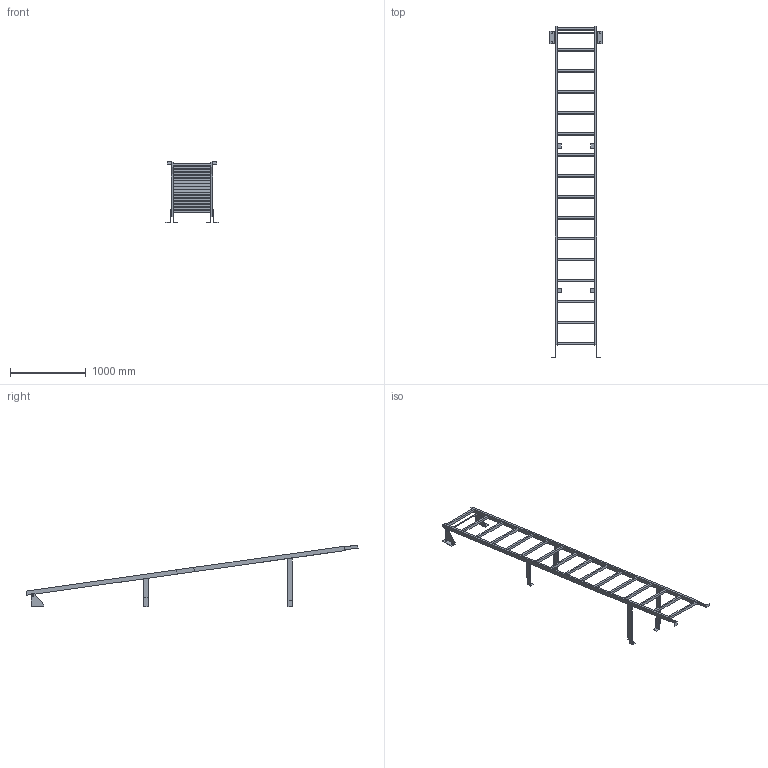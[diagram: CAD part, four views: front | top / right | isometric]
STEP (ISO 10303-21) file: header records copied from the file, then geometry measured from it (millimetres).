
FILE_DESCRIPTION((''),'2;1');
FILE_NAME('52310369','2024-10-17T09:07:25',('wep'),('HUBER SE'),'CREO PARAMETRIC BY PTC INC, 2022162','CREO PARAMETRIC BY PTC INC, 2022162','');
FILE_SCHEMA(('AUTOMOTIVE_DESIGN { 1 0 10303 214 1 1 1 1 }'));
Length unit declared in the file: millimetre
Products named in the file (1): 52310369
Bounding box: 690 x 4387.7 x 817.97 mm (x, y, z)
Volume: 22066631.4 mm3; surface area: 2931605.5 mm2
Topology: 11 solids, 11 shells, 196 faces, 504 edges, 336 vertices
Faces by surface type: plane 180, cylinder 16
Entity records: 6489 total; most frequent: CARTESIAN_POINT 1038, ORIENTED_EDGE 1008, DIRECTION 928, EDGE_CURVE 504, VECTOR 472, LINE 472, VERTEX_POINT 336, EDGE_LOOP 242
